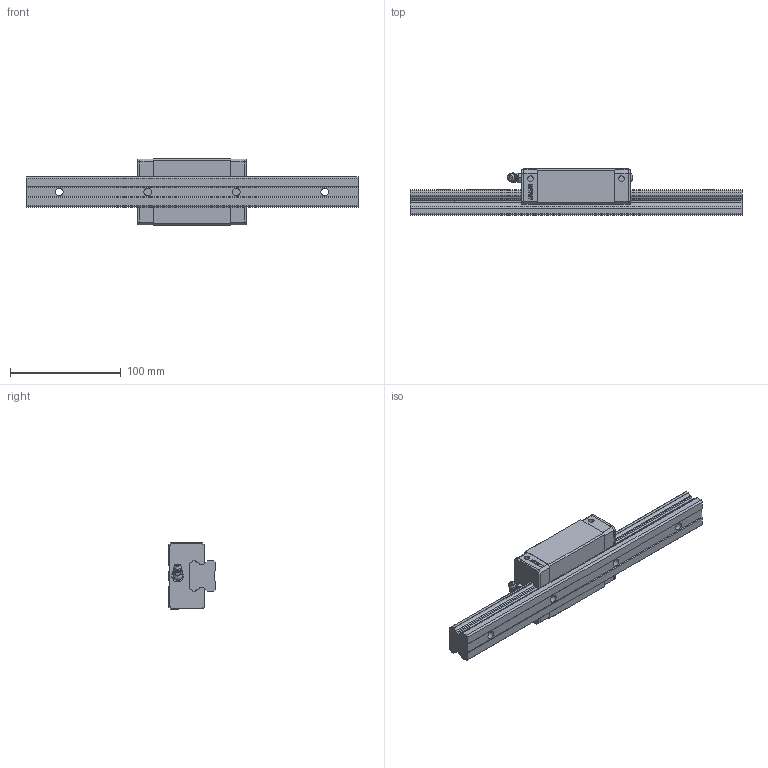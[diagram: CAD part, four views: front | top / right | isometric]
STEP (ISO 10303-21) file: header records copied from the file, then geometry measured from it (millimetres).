
FILE_DESCRIPTION(/* description */ (''),/* implementation_level */ '2;1');
FILE_NAME(/* name */ 'D:\3D網頁資料庫\Download\3D\EGH30CA1R300Z0C_GW202101009167\EGH30CA1R300Z0C_GW202101009167.stp',/* time_stamp */ '2021-01-20T15:01:01+08:00',/* author */ ('tim.lin'),/* organization */ (''),/* preprocessor_version */ 'ST-DEVELOPER v16.13',/* originating_system */ 'Autodesk Inventor 2018',/* authorisation */ '');
FILE_SCHEMA (('AUTOMOTIVE_DESIGN { 1 0 10303 214 3 1 1 }'));
Products named in the file (5): EGH30CA1R300Z0C_GW202101009167; EGR30_temp-1; EGH30C_右封_temp; 34320001; M6H
Assembly tree (4 placements, depth 2):
  EGH30CA1R300Z0C_GW202101009167
    EGR30_temp-1
    EGH30C_右封_temp
    34320001
    M6H
Bounding box: 300 x 42 x 60 mm (x, y, z)
Volume: 319484.6 mm3; surface area: 73419.1 mm2
Topology: 8 solids, 9 shells, 846 faces, 2282 edges, 1486 vertices
Faces by surface type: plane 536, cylinder 203, bspline 61, cone 42, sphere 3, torus 1
Full cylindrical faces by diameter (mm): 1 x2, 2 x1, 5 x4, 6 x6, 6.647 x4, 7 x4, 7.3 x2, 8 x2, 10.5 x2, 11 x4
Entity records: 27749 total; most frequent: CARTESIAN_POINT 6598, ORIENTED_EDGE 4450, DIRECTION 4153, EDGE_CURVE 2225, LINE 1623, VECTOR 1623, VERTEX_POINT 1469, AXIS2_PLACEMENT_3D 1265
